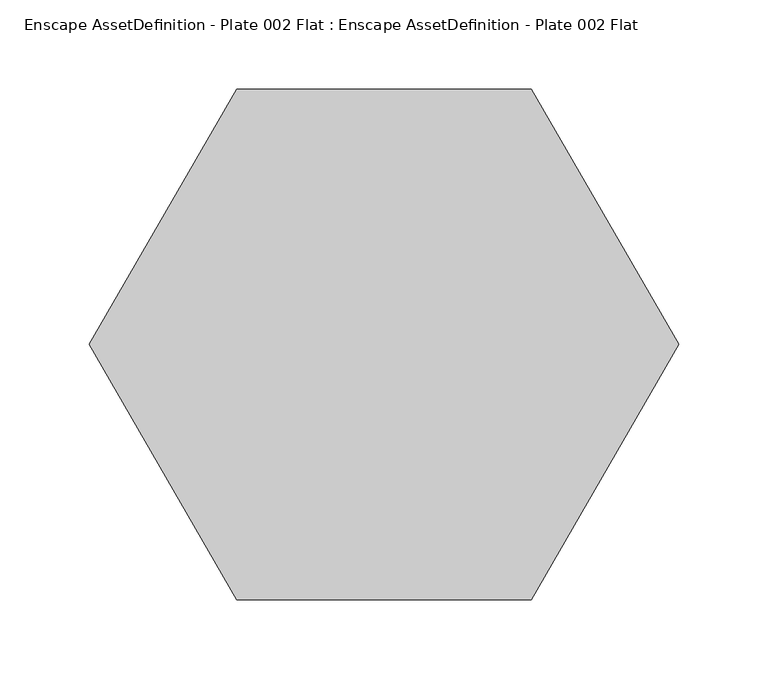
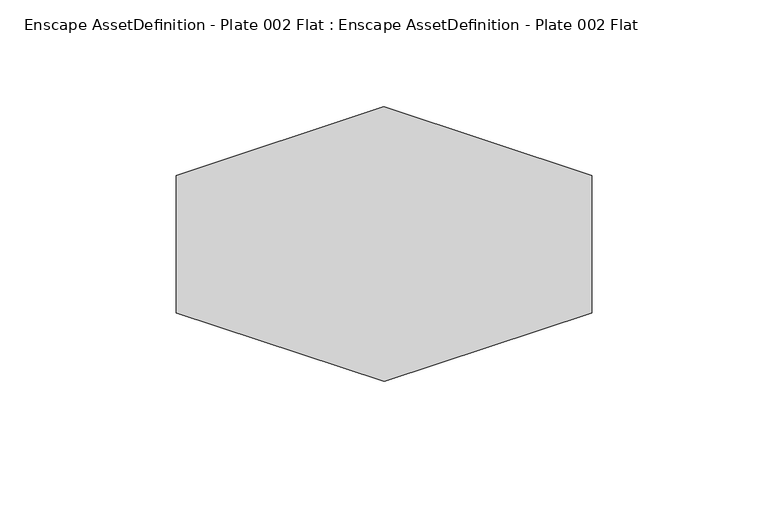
"""IFC4 building model written with IfcOpenShell, lengths in millimetres: geographic element geometry, Enscape AssetDefinition - Plate 002 Flat : Enscape AssetDefinition - Plate 002 Flat."""

from ifc_helpers import new_model, si_unit, origin, place, context, project, spatial, triangles, source, transform, mapped, element, save


def enscape_assetdefinition_plate_002_flat_enscape_c81c6526(model_context):
    return source(origin(), model_context, "Body", "Tessellation", [
        triangles([(82.8527916, 143.5061206, 17.9999994), (102.5210224, 0.0, 0.0), (51.2605112, 88.7864501, 0.0), (-165.7066006, 0.0, 17.9999994), (-82.8527916, -143.5061206, 17.9999994), (51.2605112, -88.7864501, 0.0), (165.7066006, 0.0, 17.9999994), (82.8527916, -143.5061206, 17.9999994), (-102.5210224, 0.0, 0.0), (-51.2605112, 88.7864501, 0.0), (-51.2605112, -88.7864501, 0.0), (-82.8527916, 143.5061206, 17.9999994)], [[5, 8, 7], [4, 5, 7], [12, 4, 7], [1, 12, 7], [10, 3, 11], [9, 10, 11], [2, 6, 11], [3, 2, 11], [7, 8, 6], [6, 2, 7], [8, 5, 11], [11, 6, 8], [5, 4, 9], [9, 11, 5], [4, 12, 10], [10, 9, 4], [12, 1, 3], [3, 10, 12], [1, 7, 2], [2, 3, 1]]),
    ])


if __name__ == "__main__":
    model = new_model("IFC4")
    model_context = context("Model", 3, world=origin())
    ifc_project = project(units=[si_unit("LENGTHUNIT", "METRE", prefix="MILLI")], contexts=[model_context])
    site = spatial("IfcSite", under=ifc_project)
    building = spatial("IfcBuilding", under=site)
    placement = place(None, origin())
    enscape_assetdefinition_plate_002_flat_enscape_shape = enscape_assetdefinition_plate_002_flat_enscape_c81c6526(model_context)
    element("IfcGeographicElement", 1, ObjectType="Enscape AssetDefinition - Plate 002 Flat : Enscape AssetDefinition - Plate 002 Flat", at=placement, inside=building, context=model_context, shape_type="MappedRepresentation", body=[
        mapped(enscape_assetdefinition_plate_002_flat_enscape_shape, transform((0.0, 0.0, 0.0), x_axis=(1.0, 0.0, 0.0), y_axis=(0.0, 1.0, 0.0), z_axis=(0.0, 0.0, 1.0))),
    ])
    save(model, "model.ifc")
